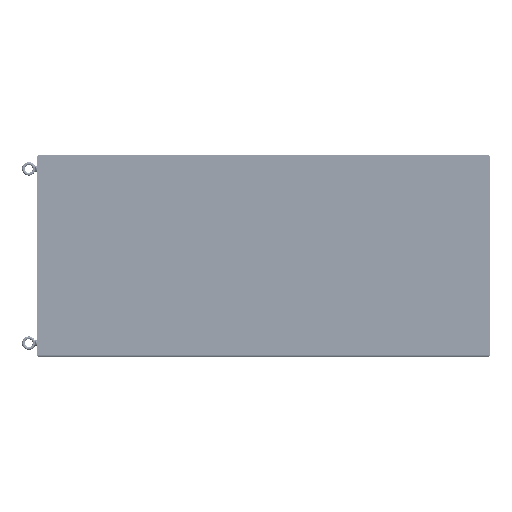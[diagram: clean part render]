
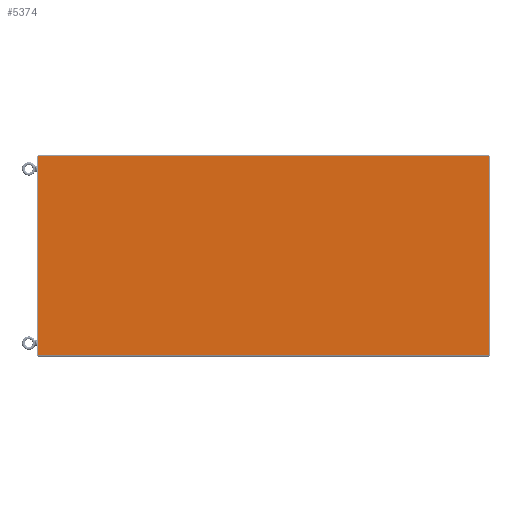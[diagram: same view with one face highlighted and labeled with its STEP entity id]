
A CAD part, front view. The second image highlights one B-rep face of the part: STEP entity #5374.
In plain terms, the highlighted planar face has unit normal (0, -1, 0) as drawn and (0, 0, 1) by its records, which use the part's own axes.
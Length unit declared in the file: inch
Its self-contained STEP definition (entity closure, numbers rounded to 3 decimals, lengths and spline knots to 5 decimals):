
#2127=DIRECTION('',(1.,0.,0.));
#2128=VECTOR('',#2127,70.658);
#2129=CARTESIAN_POINT('',(0.,0.2465,0.052));
#2130=LINE('',#2129,#2128);
#2157=CARTESIAN_POINT('',(0.015,31.377,0.052));
#2158=DIRECTION('',(0.,0.,1.));
#2159=DIRECTION('',(0.,1.,0.));
#2160=AXIS2_PLACEMENT_3D('',#2157,#2158,#2159);
#2165=DIRECTION('',(-1.,0.,0.));
#2166=VECTOR('',#2165,70.628);
#2167=CARTESIAN_POINT('',(70.643,31.392,0.052));
#2168=LINE('',#2167,#2166);
#2172=CARTESIAN_POINT('',(70.643,31.377,0.052));
#2173=DIRECTION('',(0.,0.,1.));
#2174=DIRECTION('',(1.,0.,0.));
#2175=AXIS2_PLACEMENT_3D('',#2172,#2173,#2174);
#2180=DIRECTION('',(0.,1.,0.));
#2181=VECTOR('',#2180,31.1305);
#2182=CARTESIAN_POINT('',(70.658,0.2465,0.052));
#2183=LINE('',#2182,#2181);
#2187=DIRECTION('',(0.,-1.,0.));
#2188=VECTOR('',#2187,31.1305);
#2189=CARTESIAN_POINT('',(0.,31.377,0.052));
#2190=LINE('',#2189,#2188);
#3591=CARTESIAN_POINT('',(0.,0.2465,0.052));
#3592=CARTESIAN_POINT('',(70.658,0.2465,0.052));
#3593=VERTEX_POINT('',#3591);
#3594=VERTEX_POINT('',#3592);
#3607=CARTESIAN_POINT('',(0.015,31.392,0.052));
#3608=CARTESIAN_POINT('',(0.,31.377,0.052));
#3609=VERTEX_POINT('',#3607);
#3610=VERTEX_POINT('',#3608);
#3615=CARTESIAN_POINT('',(70.658,31.377,0.052));
#3616=CARTESIAN_POINT('',(70.643,31.392,0.052));
#3617=VERTEX_POINT('',#3615);
#3618=VERTEX_POINT('',#3616);
#5356=CARTESIAN_POINT('',(70.658,0.,0.052));
#5357=DIRECTION('',(0.,0.,1.));
#5358=DIRECTION('',(1.,0.,0.));
#5359=AXIS2_PLACEMENT_3D('',#5356,#5357,#5358);
#5360=PLANE('',#5359);
#5362=ORIENTED_EDGE('',*,*,#5361,.F.);
#5364=ORIENTED_EDGE('',*,*,#5363,.F.);
#5366=ORIENTED_EDGE('',*,*,#5365,.F.);
#5368=ORIENTED_EDGE('',*,*,#5367,.F.);
#5369=ORIENTED_EDGE('',*,*,#5347,.F.);
#5371=ORIENTED_EDGE('',*,*,#5370,.F.);
#5372=EDGE_LOOP('',(#5362,#5364,#5366,#5368,#5369,#5371));
#5373=FACE_OUTER_BOUND('',#5372,.F.);
#2161=CIRCLE('',#2160,0.015);
#2176=CIRCLE('',#2175,0.015);
#5347=EDGE_CURVE('',#3593,#3594,#2130,.T.);
#5361=EDGE_CURVE('',#3609,#3610,#2161,.T.);
#5363=EDGE_CURVE('',#3618,#3609,#2168,.T.);
#5365=EDGE_CURVE('',#3617,#3618,#2176,.T.);
#5367=EDGE_CURVE('',#3594,#3617,#2183,.T.);
#5370=EDGE_CURVE('',#3610,#3593,#2190,.T.);
#5374=ADVANCED_FACE('',(#5373),#5360,.T.);
